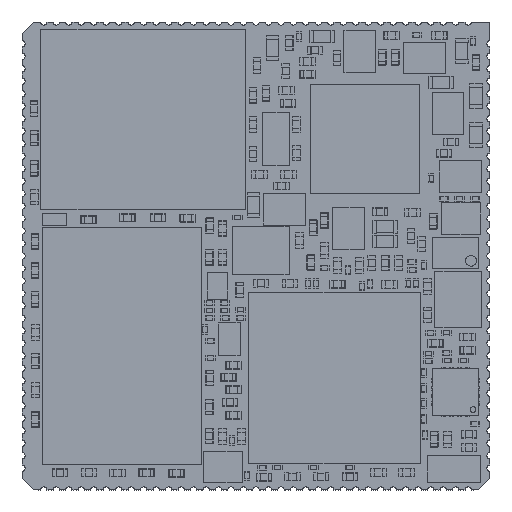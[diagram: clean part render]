
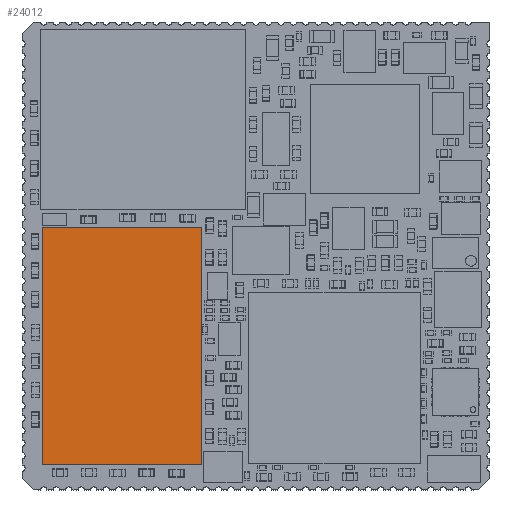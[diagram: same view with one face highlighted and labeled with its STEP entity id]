
A CAD part, top view. The second image highlights one B-rep face of the part: STEP entity #24012.
In plain terms, the highlighted planar face has unit normal (0, 0, 1).
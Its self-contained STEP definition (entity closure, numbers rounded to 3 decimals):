
#422 = DIRECTION ( 'NONE',  ( -1., 0., 0. ) ) ;
#556 = DIRECTION ( 'NONE',  ( 0., 0., 1. ) ) ;
#4429 = ORIENTED_EDGE ( 'NONE', *, *, #61160, .T. ) ;
#5841 = PLANE ( 'NONE',  #63513 ) ;
#9561 = LINE ( 'NONE', #44064, #22735 ) ;
#11109 = DIRECTION ( 'NONE',  ( 1., 0., 0. ) ) ;
#11339 = VERTEX_POINT ( 'NONE', #59184 ) ;
#11577 = EDGE_CURVE ( 'NONE', #64692, #11339, #61789, .T. ) ;
#13077 = CARTESIAN_POINT ( 'NONE',  ( -5.1, -7.6, 1. ) ) ;
#13887 = FACE_OUTER_BOUND ( 'NONE', #20201, .T. ) ;
#14352 = VECTOR ( 'NONE', #422, 1000. ) ;
#16467 = VECTOR ( 'NONE', #30613, 1000. ) ;
#16847 = CARTESIAN_POINT ( 'NONE',  ( 0., 0., 1. ) ) ;
#17732 = CARTESIAN_POINT ( 'NONE',  ( -5.1, 0., 1. ) ) ;
#20201 = EDGE_LOOP ( 'NONE', ( #4429, #20675, #30227, #40640 ) ) ;
#20675 = ORIENTED_EDGE ( 'NONE', *, *, #60237, .T. ) ;
#21341 = VERTEX_POINT ( 'NONE', #58607 ) ;
#22735 = VECTOR ( 'NONE', #43137, 1000. ) ;
#24012 = ADVANCED_FACE ( 'NONE', ( #13887 ), #5841, .T. ) ;
#30227 = ORIENTED_EDGE ( 'NONE', *, *, #56327, .T. ) ;
#30613 = DIRECTION ( 'NONE',  ( 1., 0., 0. ) ) ;
#37480 = CARTESIAN_POINT ( 'NONE',  ( 5.1, 7.6, 1. ) ) ;
#40640 = ORIENTED_EDGE ( 'NONE', *, *, #11577, .T. ) ;
#43137 = DIRECTION ( 'NONE',  ( 0., 1., 0. ) ) ;
#44022 = LINE ( 'NONE', #58156, #14352 ) ;
#44064 = CARTESIAN_POINT ( 'NONE',  ( 5.1, 0., 1. ) ) ;
#44679 = VECTOR ( 'NONE', #59838, 1000. ) ;
#56327 = EDGE_CURVE ( 'NONE', #21341, #64692, #61067, .T. ) ;
#56804 = VERTEX_POINT ( 'NONE', #37480 ) ;
#58156 = CARTESIAN_POINT ( 'NONE',  ( 0., 7.6, 1. ) ) ;
#58607 = CARTESIAN_POINT ( 'NONE',  ( -5.1, 7.6, 1. ) ) ;
#59184 = CARTESIAN_POINT ( 'NONE',  ( 5.1, -7.6, 1. ) ) ;
#59838 = DIRECTION ( 'NONE',  ( 0., -1., 0. ) ) ;
#60237 = EDGE_CURVE ( 'NONE', #56804, #21341, #44022, .T. ) ;
#60771 = CARTESIAN_POINT ( 'NONE',  ( 0., -7.6, 1. ) ) ;
#61067 = LINE ( 'NONE', #17732, #44679 ) ;
#61160 = EDGE_CURVE ( 'NONE', #11339, #56804, #9561, .T. ) ;
#61789 = LINE ( 'NONE', #60771, #16467 ) ;
#63513 = AXIS2_PLACEMENT_3D ( 'NONE', #16847, #556, #11109 ) ;
#64692 = VERTEX_POINT ( 'NONE', #13077 ) ;
